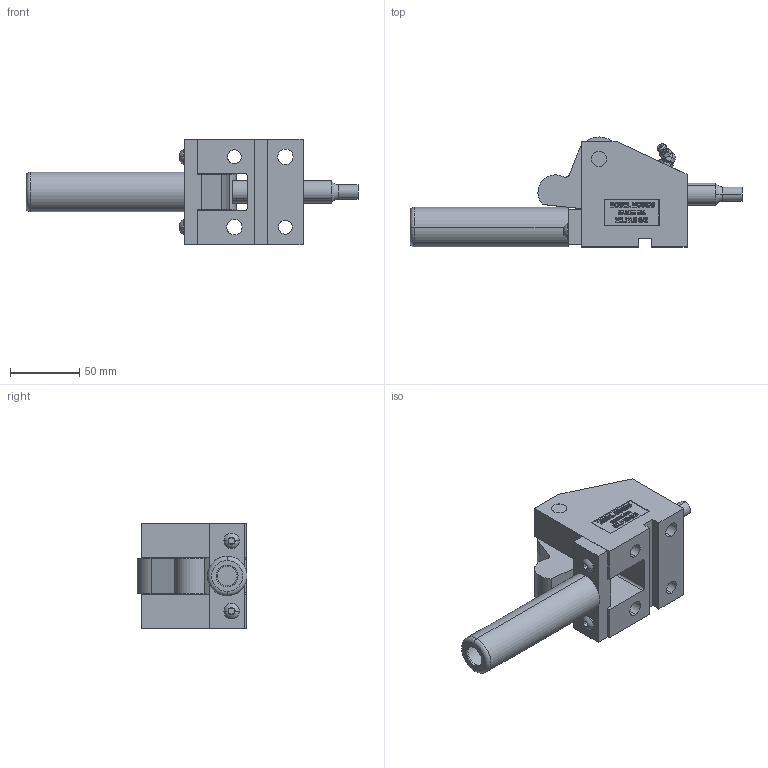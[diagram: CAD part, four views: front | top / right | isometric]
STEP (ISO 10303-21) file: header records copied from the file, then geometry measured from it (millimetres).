
FILE_DESCRIPTION (( 'STEP AP214' ), '1' );
FILE_NAME ('MOS62545-C.STEP', '2014-01-07T19:51:21', ( 'user' ), ( '' ), 'SwSTEP 2.0', 'SolidWorks 2009', '' );
FILE_SCHEMA (( 'AUTOMOTIVE_DESIGN' ));
Length unit declared in the file: inch
Products named in the file (1): MOS62545-C
Bounding box: 239.57 x 79.37 x 76.2 mm (x, y, z)
Surface area: 87492.5 mm2 (no closed solid volume)
Topology: 0 solids, 10 shells, 437 faces, 1484 edges, 1008 vertices
Faces by surface type: plane 243, bspline 95, cylinder 64, torus 20, cone 11, sphere 4
Entity records: 27743 total; most frequent: CARTESIAN_POINT 10156, ORIENTED_EDGE 2482, DIRECTION 2040, EDGE_CURVE 1484, VERTEX_POINT 1008, VECTOR 960, LINE 960, AXIS2_PLACEMENT_3D 540
